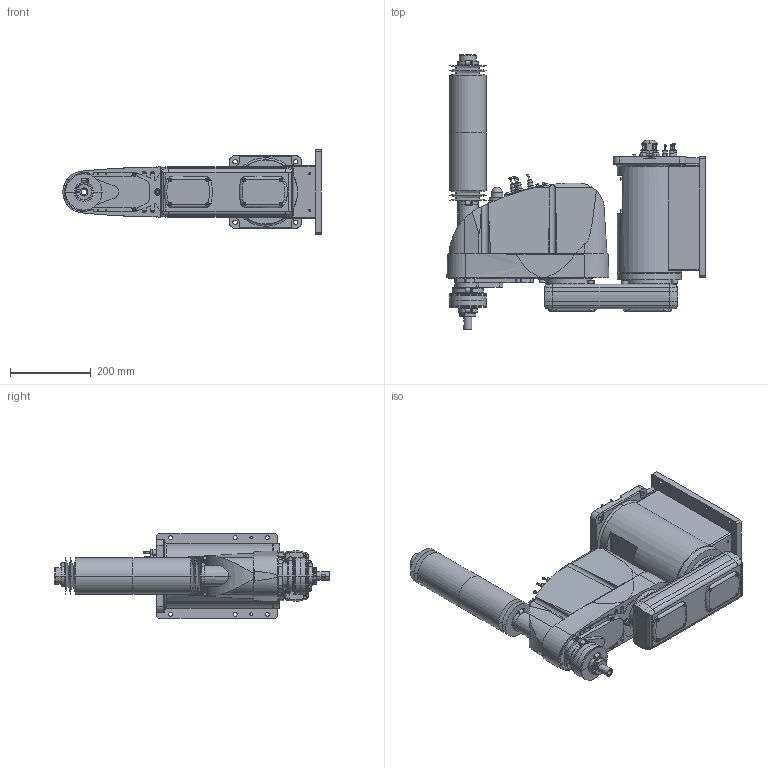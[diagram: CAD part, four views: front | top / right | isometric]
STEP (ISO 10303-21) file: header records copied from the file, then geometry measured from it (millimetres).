
FILE_DESCRIPTION( ( '' ), '1' );
FILE_NAME( '//expscmdclustefs.cadenas.external/client_exchange/iodir/jobs/output/wkb51533455_no0/STEP/G6_453DW_2_14b.stp', '2012-11-23T08:47:54', ( '' ), ( '' ), ' ', ' ', ' ' );
FILE_SCHEMA( ( 'automotive_design' ) );
Length unit declared in the file: millimetre
Products named in the file (8): 1; 2; 3; 4; 5; 6; 7; 8
Bounding box: 640 x 679.5 x 210 mm (x, y, z)
Volume: 22570944.1 mm3; surface area: 1187189.3 mm2
Topology: 8 solids, 8 shells, 1869 faces, 4528 edges, 2878 vertices
Faces by surface type: plane 894, cylinder 654, cone 280, torus 40, sphere 1
Entity records: 110009 total; most frequent: CARTESIAN_POINT 13268, DIRECTION 9668, STYLED_ITEM 9253, PRESENTATION_STYLE_ASSIGNMENT 9253, COLOUR_RGB 9253, ORIENTED_EDGE 8996, EDGE_CURVE 4498, CURVE_STYLE 4498
